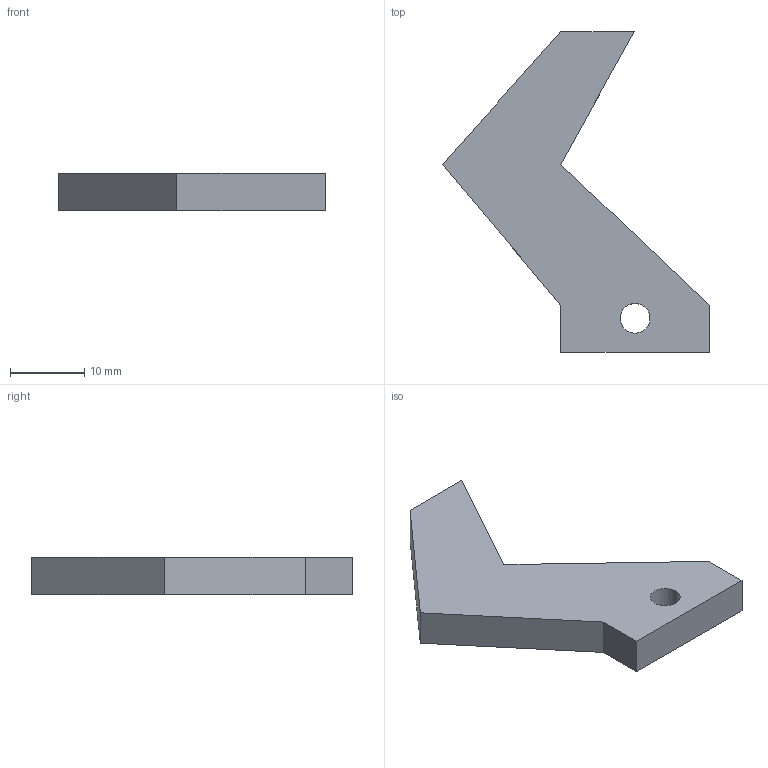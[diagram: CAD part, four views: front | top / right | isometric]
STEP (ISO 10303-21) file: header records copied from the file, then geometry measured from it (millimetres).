
FILE_DESCRIPTION(/* description */ ('STEP AP242','CAx-IF Rec.Pracs.---Representation and Presentation of Product Manufacturing Information (PMI)---4.0---2014-10-13','CAx-IF Rec.Pracs.---3D Tessellated Geometry---0.4---2014-09-14','2;1'),/* implementation_level */ '2;1');
FILE_NAME(/* name */ '65dac0eef3c31e2e3b9e1f0e',/* time_stamp */ '2024-02-25T04:24:14Z',/* author */ (''),/* organization */ (''),/* preprocessor_version */ 'ST-DEVELOPER v19.4',/* originating_system */ ' ',/* authorisation */ ' ');
FILE_SCHEMA (('AP242_MANAGED_MODEL_BASED_3D_ENGINEERING_MIM_LF { 1 0 10303 442 1 1 4 }'));
Length unit declared in the file: metre
Products named in the file (1): Part 1
Bounding box: 35.91 x 43.17 x 5 mm (x, y, z)
Volume: 3425.6 mm3; surface area: 2129.2 mm2
Topology: 1 solids, 1 shells, 11 faces, 27 edges, 18 vertices
Faces by surface type: plane 10, cylinder 1
Full cylindrical faces by diameter (mm): 4 x1
Entity records: 344 total; most frequent: CARTESIAN_POINT 56, ORIENTED_EDGE 52, DIRECTION 52, EDGE_CURVE 26, LINE 24, VECTOR 24, VERTEX_POINT 18, EDGE_LOOP 14
